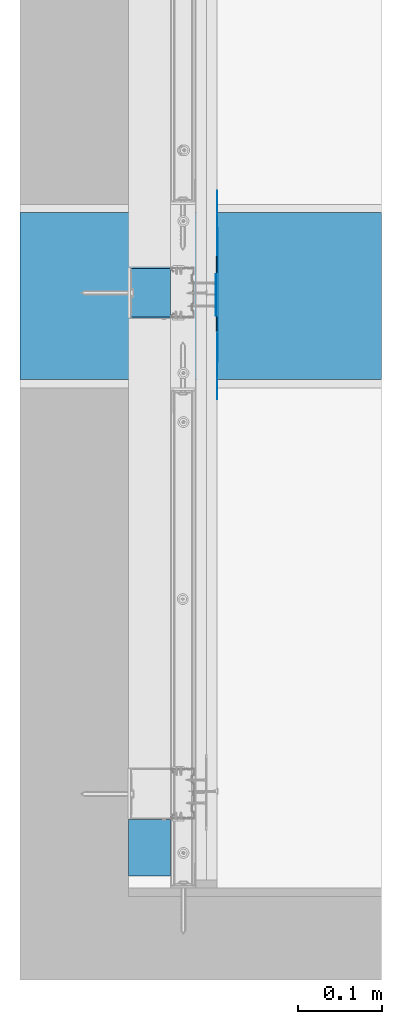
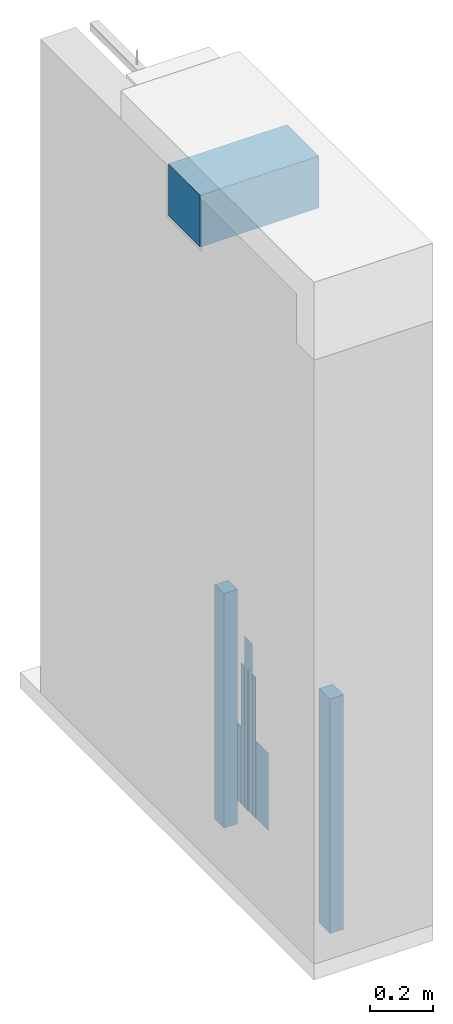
# One storey, part 5 of 67: 6 walls.
"""IFC2X3 building model written with IfcOpenShell, lengths in millimetres."""

from ifc_helpers import new_model, si_unit, frame, origin_with_axes, place, context, subcontext, project, spatial, faceted_brep, material, type_object, element, save


model = new_model("IFC2X3")

# Units and contexts
model_context = context("Model", 3, world=origin_with_axes())
body_context = subcontext(model_context, "Body", "Model", "MODEL_VIEW")
ifc_project = project(units=[si_unit("LENGTHUNIT", "METRE", prefix="MILLI"), si_unit("AREAUNIT", "SQUARE_METRE"), si_unit("VOLUMEUNIT", "CUBIC_METRE")], contexts=[model_context])

# Site, building, storey
site_placement = place(None, frame((2152.14102611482, 674.9749105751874, 57.61556563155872), z_axis=(0.0, 0.0, 1.0), x_axis=(-1.1102230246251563e-16, 1.0, 0.0)))
site = spatial("IfcSite", under=ifc_project, at=site_placement, Name="Default Site", CompositionType="ELEMENT")
building_placement = place(site_placement, origin_with_axes())
building = spatial("IfcBuilding", under=site, at=building_placement, Name="Default Building", CompositionType="ELEMENT")
storey_placement = place(building_placement, origin_with_axes())
storey = spatial("IfcBuildingStorey", under=building, at=storey_placement, Name="Default Building Storey", CompositionType="ELEMENT", Elevation=57.61556563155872)

# Walls
ifc_material_1 = material(Name="Undefined5")
wall_type_1 = type_object("IfcWallType", Name="Masa szpachlowa konstrukcyjna RIGIPS", PredefinedType="NOTDEFINED")
wall_1_placement = place(storey_placement, frame((2099.0471540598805, 5306.736799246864, 9.938461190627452), z_axis=(0.0, 0.0, 1.0), x_axis=(-1.0, 0.0, 0.0)))
element("IfcWall", 1, at=wall_1_placement, inside=storey, type_object=wall_type_1, material=ifc_material_1, Name="Masa szpachlowa konstrukcyjna RIGIPS", context=body_context, shape_type="Brep", body=[
    faceted_brep([(-737.4838590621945, 3387.669563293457, 546.7999777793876), (-737.4592423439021, 3387.356758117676, 546.7999777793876), (-737.4345660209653, 3387.669563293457, 546.7999777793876), (-737.361311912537, 3387.974739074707, 546.7999777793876), (-737.2412085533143, 3388.2646560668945, 546.7999777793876), (-737.0772361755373, 3388.532400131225, 546.7999777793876), (-736.8734478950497, 3388.770818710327, 546.7999777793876), (-736.6347908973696, 3388.9746665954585, 546.7999777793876), (-736.3672256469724, 3389.138698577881, 546.7999777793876), (-736.0772490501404, 3389.258861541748, 546.7999777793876), (-735.7720732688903, 3389.3320560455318, 546.7999777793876), (-735.4592084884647, 3389.3566131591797, 546.7999777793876), (-692.4592256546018, 3389.3566131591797, 546.7999777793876), (-691.4592385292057, 3390.556812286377, 546.7999777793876), (-782.459199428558, 3390.556812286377, 546.7999777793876), (-782.459199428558, 3389.3566131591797, 546.7999777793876), (-739.4592165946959, 3389.3566131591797, 546.7999777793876), (-739.1463518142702, 3389.3320560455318, 546.7999777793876), (-738.8411760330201, 3389.258861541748, 546.7999777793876), (-738.5512590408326, 3389.138698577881, 546.7999777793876), (-738.2836341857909, 3388.9746665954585, 546.7999777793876), (-738.0449771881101, 3388.770818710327, 546.7999777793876), (-737.8411889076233, 3388.532400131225, 546.7999777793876), (-737.6772165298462, 3388.2646560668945, 546.7999777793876), (-737.5571131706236, 3387.974739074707, 546.7999777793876), (-691.4592385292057, 3390.556812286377, 2.4499970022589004), (-692.4592256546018, 3389.3566131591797, 2.4499970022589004), (-735.4592084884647, 3389.3566131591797, 2.4499970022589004), (-735.7720732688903, 3389.3320560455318, 2.4499970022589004), (-736.0772490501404, 3389.258861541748, 2.4499970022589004), (-736.3672256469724, 3389.138698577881, 2.4499970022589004), (-736.6347908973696, 3388.9746665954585, 2.4499970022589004), (-736.8734478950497, 3388.770818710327, 2.4499970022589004), (-737.0772361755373, 3388.532400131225, 2.4499970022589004), (-737.2412085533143, 3388.2646560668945, 2.4499970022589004), (-737.361311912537, 3387.974739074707, 2.4499970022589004), (-737.4345660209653, 3387.669563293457, 2.4499970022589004), (-737.4592423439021, 3387.356758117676, 2.4499970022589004), (-737.4838590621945, 3387.669563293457, 2.4499970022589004), (-737.5571131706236, 3387.974739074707, 2.4499970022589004), (-737.6772165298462, 3388.2646560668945, 2.4499970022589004), (-737.8411889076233, 3388.532400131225, 2.4499970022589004), (-738.0449771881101, 3388.770818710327, 2.4499970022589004), (-738.2836341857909, 3388.9746665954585, 2.4499970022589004), (-738.5512590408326, 3389.138698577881, 2.4499970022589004), (-738.8411760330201, 3389.258861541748, 2.4499970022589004), (-739.1463518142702, 3389.3320560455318, 2.4499970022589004), (-739.4592165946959, 3389.3566131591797, 2.4499970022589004), (-782.459199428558, 3389.3566131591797, 2.4499970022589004), (-782.459199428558, 3390.556812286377, 2.4499970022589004)], [[[0, 1, 2, 3, 4, 5, 6, 7, 8, 9, 10, 11, 12, 13, 14, 15, 16, 17, 18, 19, 20, 21, 22, 23, 24]], [[25, 26, 27, 28, 29, 30, 31, 32, 33, 34, 35, 36, 37, 38, 39, 40, 41, 42, 43, 44, 45, 46, 47, 48, 49]], [[26, 12, 11, 27]], [[10, 9, 29, 28]], [[28, 27, 11, 10]], [[8, 30, 29, 9]], [[7, 6, 32, 31]], [[31, 30, 8, 7]], [[5, 4, 34, 33]], [[33, 32, 6, 5]], [[3, 35, 34, 4]], [[2, 1, 37, 36]], [[36, 35, 3, 2]], [[0, 24, 39, 38]], [[38, 37, 1, 0]], [[23, 40, 39, 24]], [[22, 21, 42, 41]], [[41, 40, 23, 22]], [[20, 19, 44, 43]], [[43, 42, 21, 20]], [[18, 45, 44, 19]], [[17, 16, 47, 46]], [[46, 45, 18, 17]], [[47, 16, 15, 48]], [[48, 15, 14, 49]], [[49, 14, 13, 25]], [[25, 13, 12, 26]]]),
])
ifc_material_2 = material(Name="Undefined8")
wall_type_2 = type_object("IfcWallType", Name="Taśma spoinowa RIGIPS", PredefinedType="NOTDEFINED")
wall_2_placement = place(storey_placement, frame((3572.96558675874, 5306.836799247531, 9.938461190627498), z_axis=(0.0, 0.0, 1.0), x_axis=(1.0, 0.0, 0.0)))
element("IfcWall", 2, at=wall_2_placement, inside=storey, type_object=wall_type_2, material=ifc_material_2, Name="Taśma spoinowa RIGIPS", context=body_context, shape_type="Brep", body=[
    faceted_brep([(-762.4592185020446, -3389.3566131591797, 663.8000016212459), (-762.4592185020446, -3389.8568153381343, 663.8000016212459), (-712.4592065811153, -3389.8568153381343, 663.8000016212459), (-712.4592065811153, -3389.3566131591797, 663.8000016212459), (-762.4592185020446, -3389.8568153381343, 2.4499970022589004), (-762.4592185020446, -3389.3566131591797, 2.4499970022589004), (-712.4592065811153, -3389.3566131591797, 2.4499970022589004), (-712.4592065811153, -3389.8568153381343, 2.4499970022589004)], [[[0, 1, 2, 3]], [[4, 5, 6, 7]], [[5, 0, 3, 6]], [[4, 1, 0, 5]], [[7, 2, 1, 4]], [[6, 3, 2, 7]]]),
])
ifc_material_3 = material(Name="Undefined2")
wall_type_3 = type_object("IfcWallType", Name="Masa szpachlowa wykończeniowa RIGIPS", PredefinedType="NOTDEFINED")
wall_3_placement = place(storey_placement, frame((3572.965586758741, 5306.73679924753, 9.938461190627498), z_axis=(0.0, 0.0, 1.0), x_axis=(1.0, 0.0, 0.0)))
element("IfcWall", 3, at=wall_3_placement, inside=storey, type_object=wall_type_3, material=ifc_material_3, Name="Masa szpachlowa wykończeniowa RIGIPS", context=body_context, shape_type="Brep", body=[
    faceted_brep([(-662.4571681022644, -3391.1967277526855, 2.449997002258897), (-712.4581933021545, -3391.5166854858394, 2.449997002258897), (-762.4602317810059, -3391.5166854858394, 2.449997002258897), (-812.461256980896, -3391.1967277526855, 2.449997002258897), (-862.4592423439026, -3390.556812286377, 2.449997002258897), (-612.4592423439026, -3390.556812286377, 2.449997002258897), (-712.4581933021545, -3391.5166854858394, 300.79999566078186), (-662.4571681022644, -3391.1967277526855, 300.79999566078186), (-612.4592423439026, -3390.556812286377, 300.79999566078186), (-862.4592423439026, -3390.556812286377, 300.79999566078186), (-812.461256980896, -3391.1967277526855, 300.79999566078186), (-762.4602317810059, -3391.5166854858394, 300.79999566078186)], [[[0, 1, 2, 3, 4, 5]], [[6, 7, 8, 9, 10, 11]], [[7, 0, 5, 8]], [[6, 1, 0, 7]], [[11, 2, 1, 6]], [[10, 3, 2, 11]], [[3, 10, 9, 4]], [[4, 9, 8, 5]]]),
])
ifc_material_4 = material(Name="M05_Graphite_Haze")
wall_type_4 = type_object("IfcWallType", Name="Belka żelbetowa", PredefinedType="NOTDEFINED")
wall_4_placement = place(storey_placement, frame((4302.040564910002, 2049.141026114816, 2327.3944339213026), z_axis=(0.0, 0.0, 1.0), x_axis=(1.0, 0.0, 0.0)))
element("IfcWall", 4, at=wall_4_placement, inside=storey, type_object=wall_type_4, material=ifc_material_4, Name="Belka żelbetowa", context=body_context, shape_type="Brep", body=[
    faceted_brep([(-1367.9999832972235, 103.00000000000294, 3.0000004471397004), (-1367.9999832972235, 103.00000000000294, 203.00000000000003), (-1367.9999832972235, -330.000000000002, 203.00000000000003), (-1367.9999832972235, -330.000000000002, 3.0000004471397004), (-1568.0154759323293, 103.00000000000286, 203.00000000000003), (-1568.0154759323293, 103.00000000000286, 3.0000004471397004), (-1568.0154759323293, -330.0000000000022, 3.0000004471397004), (-1568.0154759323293, -330.0000000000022, 203.00000000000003)], [[[0, 1, 2, 3]], [[4, 5, 6, 7]], [[1, 0, 5, 4]], [[2, 1, 4, 7]], [[3, 2, 7, 6]], [[0, 3, 6, 5]]]),
])
ifc_material_5 = material(Name="Default")
wall_type_5 = type_object("IfcWallType", Name="Wypełnienie z wełny mineralnej szklanej ISOVER#18", PredefinedType="NOTDEFINED")
wall_5_placement = place(storey_placement, frame((2641.0623067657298, 5350.424146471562, -7.9000002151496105), z_axis=(0.0, 0.0, 1.0), x_axis=(-1.0, 4.718447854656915e-16, 0.0)))
element("IfcWall", 5, at=wall_5_placement, inside=storey, type_object=wall_type_5, material=ifc_material_5, Name="Wypełnienie z wełny mineralnej szklanej ISOVER", context=body_context, shape_type="Brep", body=[
    faceted_brep([(-168.124780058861, 3328.2832634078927, 7.899999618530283), (-168.124780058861, 3328.2832634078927, 911.5436077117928), (-225.97478152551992, 3328.2832634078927, 911.5436077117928), (-225.97478152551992, 3328.2832634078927, 7.899999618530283), (-168.124780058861, 3378.283168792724, 7.899999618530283), (-168.124780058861, 3378.283168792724, 911.5436077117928), (-225.97478152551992, 3378.283168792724, 911.5436077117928), (-225.97478152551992, 3378.283168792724, 7.899999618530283)], [[[0, 1, 2, 3]], [[0, 4, 5, 1]], [[6, 5, 4, 7]], [[7, 4, 0, 3]]]),
    faceted_brep([(-225.97478152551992, 3328.2832634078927, 911.5436077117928), (-225.97478152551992, 3378.283168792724, 911.5436077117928), (-225.97478152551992, 3378.283168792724, 7.899999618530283), (-225.97478152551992, 3328.2832634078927, 7.899999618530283), (-168.124780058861, 3328.2832634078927, 911.5436077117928), (-168.124780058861, 3378.283168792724, 911.5436077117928)], [[[0, 1, 2, 3]], [[1, 0, 4, 5]]]),
])
ifc_material_6 = material(Name="Undefined")
wall_type_6 = type_object("IfcWallType", Name="Wypełnienie z wełny mineralnej szklanej ISOVER#11", PredefinedType="NOTDEFINED")
wall_6_placement = place(storey_placement, frame((1971.1842541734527, 5350.424146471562, -7.9000002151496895), z_axis=(0.0, 0.0, 1.0), x_axis=(-1.0, 4.718447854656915e-16, 0.0)))
element("IfcWall", 6, at=wall_6_placement, inside=storey, type_object=wall_type_6, material=ifc_material_6, Name="Wypełnienie z wełny mineralnej szklanej ISOVER", context=body_context, shape_type="Brep", body=[
    faceted_brep([(-168.12478005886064, 3328.283263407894, 7.899999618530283), (-168.12478005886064, 3328.283263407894, 911.5436077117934), (-236.00283265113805, 3328.283263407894, 911.5436077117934), (-236.00283265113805, 3328.283263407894, 7.899999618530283), (-168.12478005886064, 3378.2831687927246, 7.899999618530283), (-168.12478005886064, 3378.2831687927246, 911.5436077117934), (-236.00283265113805, 3378.283168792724, 911.5436077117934), (-236.00283265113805, 3378.283168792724, 7.899999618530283)], [[[0, 1, 2, 3]], [[0, 4, 5, 1]], [[6, 5, 4, 7]], [[7, 4, 0, 3]]]),
    faceted_brep([(-236.00283265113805, 3328.283263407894, 911.5436077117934), (-236.00283265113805, 3378.283168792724, 911.5436077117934), (-236.00283265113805, 3378.283168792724, 7.899999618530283), (-236.00283265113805, 3328.283263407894, 7.899999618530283), (-168.12478005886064, 3328.283263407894, 911.5436077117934), (-168.12478005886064, 3378.2831687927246, 911.5436077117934)], [[[0, 1, 2, 3]], [[1, 0, 4, 5]]]),
])

save(model, "model.ifc")
